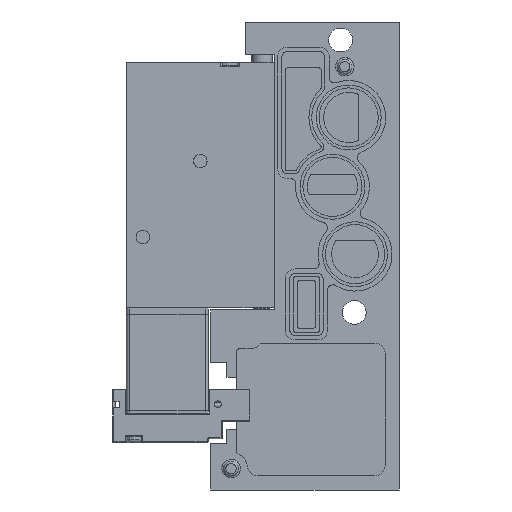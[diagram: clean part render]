
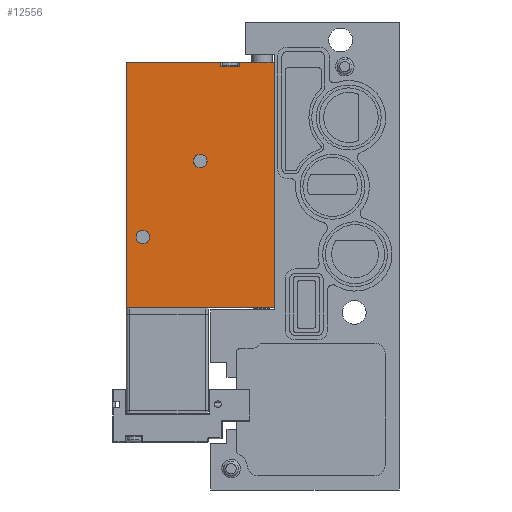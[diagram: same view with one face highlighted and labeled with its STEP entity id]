
A CAD part, left-side view. The second image highlights one B-rep face of the part: STEP entity #12556.
In plain terms, the highlighted planar face has unit normal (-1, 0, 0) as drawn and (0, 0, 1) by its records, which use the part's own axes.
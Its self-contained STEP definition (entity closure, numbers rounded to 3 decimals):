
#1047 = DIRECTION ( 'NONE',  ( 1., 0., 0. ) ) ;
#1326 = CARTESIAN_POINT ( 'NONE',  ( -35.8, -18., 5. ) ) ;
#4128 = EDGE_CURVE ( 'NONE', #33891, #19681, #19804, .T. ) ;
#6598 = CARTESIAN_POINT ( 'NONE',  ( 23.05, -9.477, 5. ) ) ;
#7298 = CARTESIAN_POINT ( 'NONE',  ( -36.3, -5.023, 5. ) ) ;
#7505 = CARTESIAN_POINT ( 'NONE',  ( -36.3, -18., 5. ) ) ;
#7544 = CARTESIAN_POINT ( 'NONE',  ( -36.3, -9.477, 5. ) ) ;
#7595 = DIRECTION ( 'NONE',  ( 1., 0., 0. ) ) ;
#9257 = DIRECTION ( 'NONE',  ( 1., 0., 0. ) ) ;
#9514 = CARTESIAN_POINT ( 'NONE',  ( -36.3, -18., 5. ) ) ;
#10148 = PLANE ( 'NONE',  #60038 ) ;
#10276 = LINE ( 'NONE', #31467, #41154 ) ;
#10289 = ORIENTED_EDGE ( 'NONE', *, *, #58297, .T. ) ;
#11390 = DIRECTION ( 'NONE',  ( 0., 0., 1. ) ) ;
#12556 = ADVANCED_FACE ( 'NONE', ( #41435, #70599, #33446 ), #10148, .T. ) ;
#14956 = EDGE_CURVE ( 'NONE', #22147, #33891, #17174, .T. ) ;
#15432 = VERTEX_POINT ( 'NONE', #79092 ) ;
#16714 = VECTOR ( 'NONE', #55322, 1000. ) ;
#17174 = LINE ( 'NONE', #22352, #16714 ) ;
#17784 = CARTESIAN_POINT ( 'NONE',  ( 24.05, 18., 5. ) ) ;
#18058 = DIRECTION ( 'NONE',  ( 0., 1., 0. ) ) ;
#18435 = VECTOR ( 'NONE', #33657, 1000. ) ;
#19203 = VERTEX_POINT ( 'NONE', #71820 ) ;
#19320 = CARTESIAN_POINT ( 'NONE',  ( 24.05, -9.477, 5. ) ) ;
#19681 = VERTEX_POINT ( 'NONE', #1326 ) ;
#19804 = LINE ( 'NONE', #39118, #18435 ) ;
#22147 = VERTEX_POINT ( 'NONE', #23919 ) ;
#22352 = CARTESIAN_POINT ( 'NONE',  ( -36.3, 18., 5. ) ) ;
#23590 = AXIS2_PLACEMENT_3D ( 'NONE', #26403, #69419, #32644 ) ;
#23919 = CARTESIAN_POINT ( 'NONE',  ( 24.05, 18., 5. ) ) ;
#24424 = EDGE_CURVE ( 'NONE', #19681, #35812, #62362, .T. ) ;
#24663 = DIRECTION ( 'NONE',  ( 0., -1., 0. ) ) ;
#25282 = ORIENTED_EDGE ( 'NONE', *, *, #26770, .T. ) ;
#26222 = CARTESIAN_POINT ( 'NONE',  ( 24.05, -18., 5. ) ) ;
#26403 = CARTESIAN_POINT ( 'NONE',  ( 0., 0., 5. ) ) ;
#26770 = EDGE_CURVE ( 'NONE', #35812, #53583, #35326, .T. ) ;
#26873 = VECTOR ( 'NONE', #18058, 1000. ) ;
#27528 = LINE ( 'NONE', #7298, #41972 ) ;
#30164 = VECTOR ( 'NONE', #78004, 1000. ) ;
#30568 = EDGE_LOOP ( 'NONE', ( #61183, #56204, #63176, #37805, #25282, #10289, #44845, #30927 ) ) ;
#30648 = LINE ( 'NONE', #7544, #61450 ) ;
#30927 = ORIENTED_EDGE ( 'NONE', *, *, #70586, .T. ) ;
#31467 = CARTESIAN_POINT ( 'NONE',  ( 23.05, 0., 5. ) ) ;
#32644 = DIRECTION ( 'NONE',  ( 1., 0., 0. ) ) ;
#33446 = FACE_OUTER_BOUND ( 'NONE', #30568, .T. ) ;
#33657 = DIRECTION ( 'NONE',  ( 0., -1., 0. ) ) ;
#33891 = VERTEX_POINT ( 'NONE', #71196 ) ;
#35326 = LINE ( 'NONE', #77664, #30164 ) ;
#35812 = VERTEX_POINT ( 'NONE', #26222 ) ;
#37805 = ORIENTED_EDGE ( 'NONE', *, *, #24424, .T. ) ;
#39118 = CARTESIAN_POINT ( 'NONE',  ( -35.8, 18., 5. ) ) ;
#40654 = CIRCLE ( 'NONE', #61237, 1.65 ) ;
#41154 = VECTOR ( 'NONE', #24663, 1000. ) ;
#41435 = FACE_BOUND ( 'NONE', #50244, .T. ) ;
#41972 = VECTOR ( 'NONE', #1047, 1000. ) ;
#43521 = VERTEX_POINT ( 'NONE', #6598 ) ;
#43526 = CARTESIAN_POINT ( 'NONE',  ( -18.5, 14., 5. ) ) ;
#44257 = EDGE_CURVE ( 'NONE', #19203, #19203, #40654, .T. ) ;
#44845 = ORIENTED_EDGE ( 'NONE', *, *, #47049, .F. ) ;
#47049 = EDGE_CURVE ( 'NONE', #63479, #43521, #10276, .T. ) ;
#49415 = ORIENTED_EDGE ( 'NONE', *, *, #75427, .T. ) ;
#50104 = VECTOR ( 'NONE', #7595, 1000. ) ;
#50244 = EDGE_LOOP ( 'NONE', ( #55356 ) ) ;
#53583 = VERTEX_POINT ( 'NONE', #19320 ) ;
#55322 = DIRECTION ( 'NONE',  ( -1., 0., 0. ) ) ;
#55356 = ORIENTED_EDGE ( 'NONE', *, *, #44257, .T. ) ;
#55903 = VERTEX_POINT ( 'NONE', #76468 ) ;
#56164 = DIRECTION ( 'NONE',  ( 1., 0., 0. ) ) ;
#56204 = ORIENTED_EDGE ( 'NONE', *, *, #14956, .T. ) ;
#56864 = DIRECTION ( 'NONE',  ( -1., 0., 0. ) ) ;
#58160 = EDGE_CURVE ( 'NONE', #55903, #22147, #59616, .T. ) ;
#58297 = EDGE_CURVE ( 'NONE', #53583, #43521, #30648, .T. ) ;
#59616 = LINE ( 'NONE', #17784, #26873 ) ;
#60038 = AXIS2_PLACEMENT_3D ( 'NONE', #9514, #11390, #9257 ) ;
#61183 = ORIENTED_EDGE ( 'NONE', *, *, #58160, .T. ) ;
#61237 = AXIS2_PLACEMENT_3D ( 'NONE', #43526, #65913, #56164 ) ;
#61450 = VECTOR ( 'NONE', #56864, 1000. ) ;
#62362 = LINE ( 'NONE', #7505, #50104 ) ;
#62938 = EDGE_LOOP ( 'NONE', ( #49415 ) ) ;
#63176 = ORIENTED_EDGE ( 'NONE', *, *, #4128, .T. ) ;
#63479 = VERTEX_POINT ( 'NONE', #78052 ) ;
#65913 = DIRECTION ( 'NONE',  ( 0., 0., -1. ) ) ;
#69419 = DIRECTION ( 'NONE',  ( 0., 0., -1. ) ) ;
#70586 = EDGE_CURVE ( 'NONE', #63479, #55903, #27528, .T. ) ;
#70599 = FACE_BOUND ( 'NONE', #62938, .T. ) ;
#71196 = CARTESIAN_POINT ( 'NONE',  ( -35.8, 18., 5. ) ) ;
#71820 = CARTESIAN_POINT ( 'NONE',  ( -16.85, 14., 5. ) ) ;
#73358 = CIRCLE ( 'NONE', #23590, 1.65 ) ;
#75427 = EDGE_CURVE ( 'NONE', #15432, #15432, #73358, .T. ) ;
#76468 = CARTESIAN_POINT ( 'NONE',  ( 24.05, -5.023, 5. ) ) ;
#77664 = CARTESIAN_POINT ( 'NONE',  ( 24.05, 18., 5. ) ) ;
#78004 = DIRECTION ( 'NONE',  ( 0., 1., 0. ) ) ;
#78052 = CARTESIAN_POINT ( 'NONE',  ( 23.05, -5.023, 5. ) ) ;
#79092 = CARTESIAN_POINT ( 'NONE',  ( 1.65, 0., 5. ) ) ;
